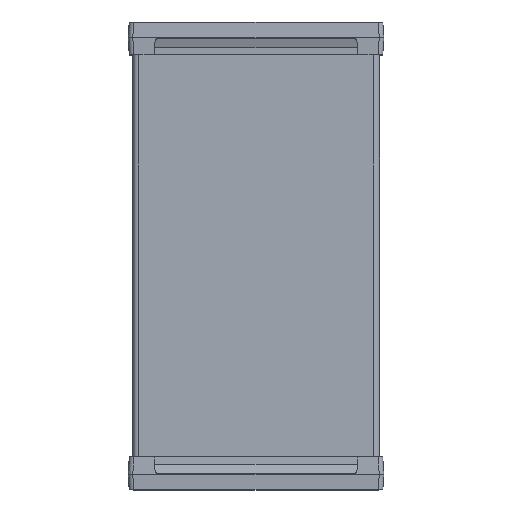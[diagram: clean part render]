
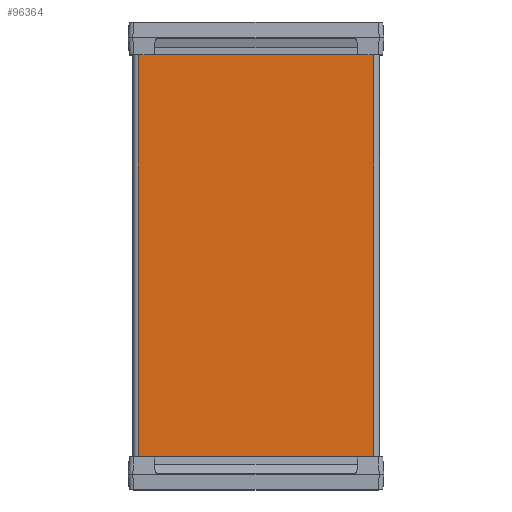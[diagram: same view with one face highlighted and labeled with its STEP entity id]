
A CAD part, top view. The second image highlights one B-rep face of the part: STEP entity #96364.
In plain terms, the highlighted planar face has unit normal (0, -1, 0) by its records, which use the part's own axes.
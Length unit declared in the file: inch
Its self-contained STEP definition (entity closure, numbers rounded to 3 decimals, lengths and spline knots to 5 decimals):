
#13209=DIRECTION('',(0.,0.,1.));
#13210=VECTOR('',#13209,14.40512);
#13211=CARTESIAN_POINT('',(-3.93274,1.68475,
-14.40514));
#13212=LINE('',#13211,#13210);
#13216=DIRECTION('',(1.,0.,0.));
#13217=VECTOR('',#13216,7.86614);
#13218=CARTESIAN_POINT('',(-3.93274,1.68475,
-0.00002));
#13219=LINE('',#13218,#13217);
#13223=DIRECTION('',(0.,0.,-1.));
#13224=VECTOR('',#13223,14.40512);
#13225=CARTESIAN_POINT('',(3.9334,1.68475,
-0.00002));
#13226=LINE('',#13225,#13224);
#13230=DIRECTION('',(1.,0.,0.));
#13231=VECTOR('',#13230,7.86614);
#13232=CARTESIAN_POINT('',(-3.93274,1.68475,
-14.40514));
#13233=LINE('',#13232,#13231);
#73657=CARTESIAN_POINT('',(3.9334,1.68475,
-0.00002));
#73658=CARTESIAN_POINT('',(3.9334,1.68475,
-14.40514));
#73659=VERTEX_POINT('',#73657);
#73660=VERTEX_POINT('',#73658);
#76420=CARTESIAN_POINT('',(-3.93274,1.68475,
-0.00002));
#76421=VERTEX_POINT('',#76420);
#76445=CARTESIAN_POINT('',(-3.93274,1.68475,
-14.40513));
#76447=VERTEX_POINT('',#76445);
#96352=CARTESIAN_POINT('',(0.00033,1.68475,
-7.20258));
#96353=DIRECTION('',(0.,1.,0.));
#96354=DIRECTION('',(-1.,0.,0.));
#96355=AXIS2_PLACEMENT_3D('',#96352,#96353,#96354);
#96356=PLANE('',#96355);
#96357=ORIENTED_EDGE('',*,*,#96347,.T.);
#96358=ORIENTED_EDGE('',*,*,#89170,.T.);
#96359=ORIENTED_EDGE('',*,*,#85660,.T.);
#96361=ORIENTED_EDGE('',*,*,#96360,.F.);
#96362=EDGE_LOOP('',(#96357,#96358,#96359,#96361));
#96363=FACE_OUTER_BOUND('',#96362,.F.);
#96364=ADVANCED_FACE('',(#96363),#96356,.F.);
#85660=EDGE_CURVE('',#73659,#73660,#13226,.T.);
#89170=EDGE_CURVE('',#76421,#73659,#13219,.T.);
#96347=EDGE_CURVE('',#76447,#76421,#13212,.T.);
#96360=EDGE_CURVE('',#76447,#73660,#13233,.T.);
